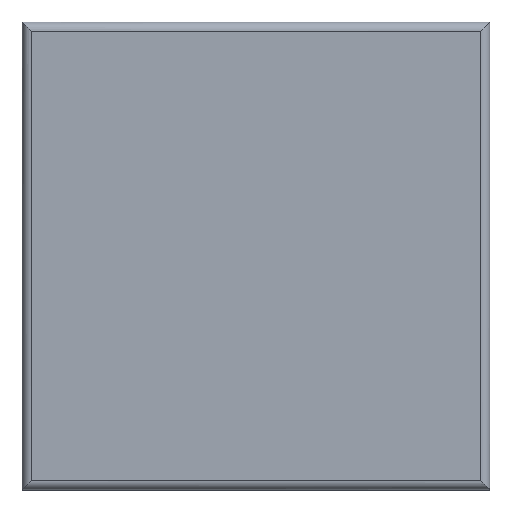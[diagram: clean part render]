
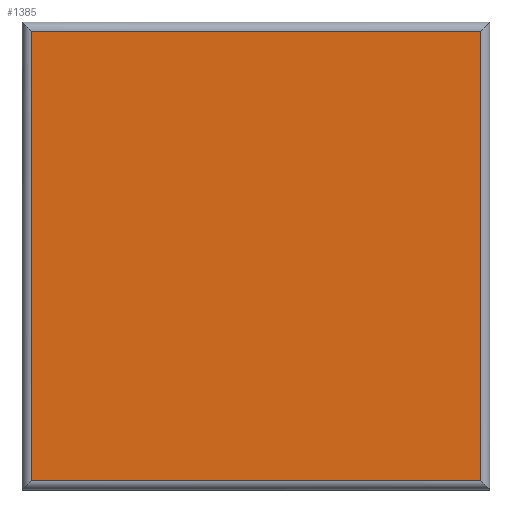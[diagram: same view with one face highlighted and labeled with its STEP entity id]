
A CAD part, top view. The second image highlights one B-rep face of the part: STEP entity #1385.
In plain terms, the highlighted planar face has unit normal (0, 0, 1).
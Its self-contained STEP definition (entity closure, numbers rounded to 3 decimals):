
#52 = VERTEX_POINT ( 'NONE', #226 ) ;
#95 = CARTESIAN_POINT ( 'NONE',  ( -26.4, -26.4, 5. ) ) ;
#116 = EDGE_CURVE ( 'NONE', #52, #1336, #123, .T. ) ;
#123 = LINE ( 'NONE', #1030, #1011 ) ;
#167 = CARTESIAN_POINT ( 'NONE',  ( 27.5, 26.4, 5. ) ) ;
#191 = DIRECTION ( 'NONE',  ( 0., 1., 0. ) ) ;
#218 = ORIENTED_EDGE ( 'NONE', *, *, #116, .T. ) ;
#226 = CARTESIAN_POINT ( 'NONE',  ( 26.4, -26.4, 5. ) ) ;
#254 = AXIS2_PLACEMENT_3D ( 'NONE', #328, #787, #191 ) ;
#316 = EDGE_CURVE ( 'NONE', #1336, #1007, #614, .T. ) ;
#323 = LINE ( 'NONE', #976, #1044 ) ;
#328 = CARTESIAN_POINT ( 'NONE',  ( 26.4, -27.5, 5. ) ) ;
#343 = PLANE ( 'NONE',  #254 ) ;
#348 = ORIENTED_EDGE ( 'NONE', *, *, #1316, .F. ) ;
#499 = DIRECTION ( 'NONE',  ( -1., 0., 0. ) ) ;
#582 = VECTOR ( 'NONE', #1078, 1000. ) ;
#610 = CARTESIAN_POINT ( 'NONE',  ( -26.4, 26.4, 5. ) ) ;
#614 = LINE ( 'NONE', #167, #853 ) ;
#639 = CARTESIAN_POINT ( 'NONE',  ( -26.4, -27.5, 5. ) ) ;
#646 = LINE ( 'NONE', #639, #582 ) ;
#670 = DIRECTION ( 'NONE',  ( -1., 0., 0. ) ) ;
#787 = DIRECTION ( 'NONE',  ( 0., 0., -1. ) ) ;
#853 = VECTOR ( 'NONE', #499, 1000. ) ;
#867 = CARTESIAN_POINT ( 'NONE',  ( 26.4, 26.4, 5. ) ) ;
#886 = ORIENTED_EDGE ( 'NONE', *, *, #316, .T. ) ;
#909 = EDGE_LOOP ( 'NONE', ( #1186, #348, #218, #886 ) ) ;
#976 = CARTESIAN_POINT ( 'NONE',  ( 27.5, -26.4, 5. ) ) ;
#1007 = VERTEX_POINT ( 'NONE', #610 ) ;
#1011 = VECTOR ( 'NONE', #1116, 1000. ) ;
#1030 = CARTESIAN_POINT ( 'NONE',  ( 26.4, -27.5, 5. ) ) ;
#1044 = VECTOR ( 'NONE', #670, 1000. ) ;
#1078 = DIRECTION ( 'NONE',  ( 0., 1., 0. ) ) ;
#1116 = DIRECTION ( 'NONE',  ( 0., 1., 0. ) ) ;
#1186 = ORIENTED_EDGE ( 'NONE', *, *, #1391, .F. ) ;
#1190 = FACE_OUTER_BOUND ( 'NONE', #909, .T. ) ;
#1316 = EDGE_CURVE ( 'NONE', #52, #1360, #323, .T. ) ;
#1336 = VERTEX_POINT ( 'NONE', #867 ) ;
#1360 = VERTEX_POINT ( 'NONE', #95 ) ;
#1385 = ADVANCED_FACE ( 'NONE', ( #1190 ), #343, .F. ) ;
#1391 = EDGE_CURVE ( 'NONE', #1360, #1007, #646, .T. ) ;
